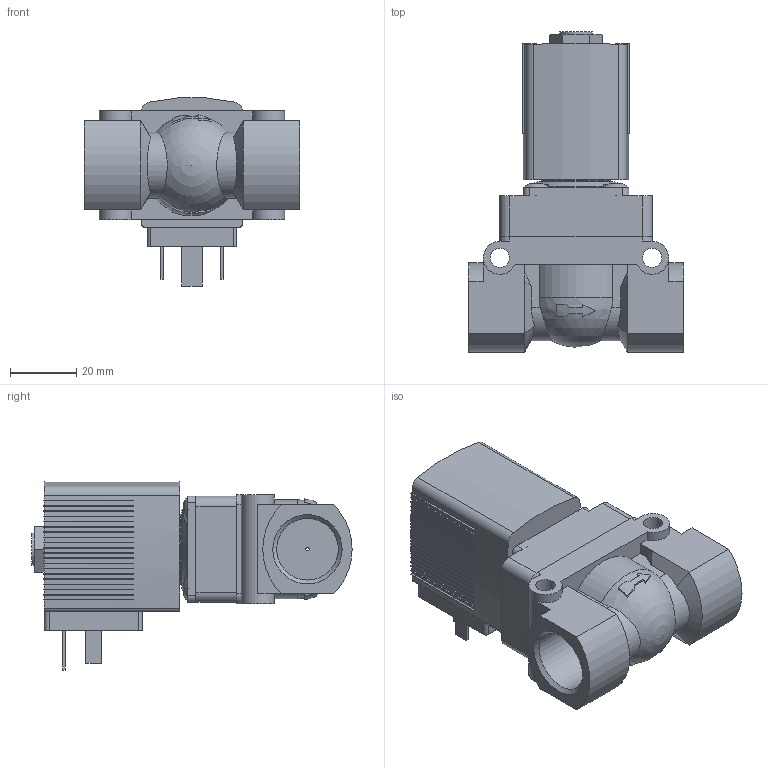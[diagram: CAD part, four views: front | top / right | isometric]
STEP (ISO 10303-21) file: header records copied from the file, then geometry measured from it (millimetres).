
FILE_DESCRIPTION(/* description */ ('STEP AP214'),/* implementation_level */ '2;1');
FILE_NAME(/* name */ '5404-153387-Servo-assisted_2_2_way_piston_valve',/* time_stamp */ '2024-02-27T12:43:11+01:00',/* author */ ('License CC BY-ND 4.0'),/* organization */ ('CADENAS'),/* preprocessor_version */ 'ST-DEVELOPER v19.3',/* originating_system */ 'PARTsolutions',/* authorisation */ ' ');
FILE_SCHEMA (('AUTOMOTIVE_DESIGN {1 0 10303 214 3 1 1}'));
Length unit declared in the file: millimetre
Products named in the file (4): 5404-153387-Servo-assisted 2/2 way piston valve; 5282g-8412MS000-2/2-Wege-Magnetventil_Gehaeuse; 5282d-12MSAU3N-2/2-Wege-Magnetventil_Deckel; AC10ex-5OO-Plan-Coil
Assembly tree (3 placements, depth 2):
  5404-153387-Servo-assisted 2/2 way piston valve
    5282g-8412MS000-2/2-Wege-Magnetventil_Gehaeuse
    5282d-12MSAU3N-2/2-Wege-Magnetventil_Deckel
    AC10ex-5OO-Plan-Coil
Bounding box: 65 x 96.8 x 56.84 mm (x, y, z)
Volume: 119859.9 mm3; surface area: 29082.5 mm2
Topology: 3 solids, 3 shells, 432 faces, 1196 edges, 790 vertices
Faces by surface type: plane 351, cylinder 57, cone 16, torus 5, sphere 3
Full cylindrical faces by diameter (mm): 1 x1, 2.013 x1, 4 x4, 5.8 x2, 7.5 x4, 7.6 x4, 9.74 x1, 18.631 x2, 21 x1
Entity records: 15701 total; most frequent: CARTESIAN_POINT 2500, ORIENTED_EDGE 2312, DIRECTION 2262, EDGE_CURVE 1156, LINE 858, VECTOR 858, VERTEX_POINT 780, AXIS2_PLACEMENT_3D 702
